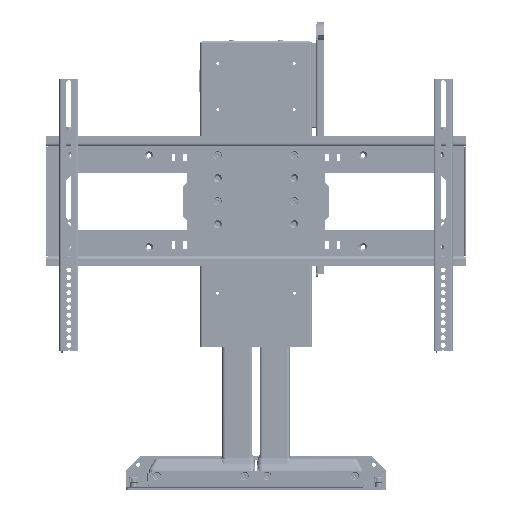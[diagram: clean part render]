
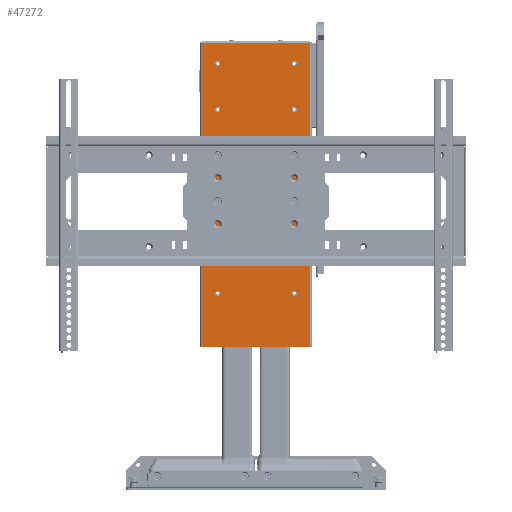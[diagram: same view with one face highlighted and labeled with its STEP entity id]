
A CAD part, front view. The second image highlights one B-rep face of the part: STEP entity #47272.
In plain terms, the highlighted planar face has unit normal (0, -1, 0) as drawn and (0, 0, 1) by its records, which use the part's own axes.
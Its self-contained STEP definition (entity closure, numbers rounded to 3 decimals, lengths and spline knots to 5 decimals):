
#3410=CIRCLE('',#54566,0.00437);
#3412=CIRCLE('',#54569,0.00437);
#3414=CIRCLE('',#54572,0.00437);
#3416=CIRCLE('',#54575,0.00437);
#3418=CIRCLE('',#54578,0.00437);
#3420=CIRCLE('',#54581,0.00437);
#3422=CIRCLE('',#54584,0.00437);
#3424=CIRCLE('',#54587,0.00437);
#3426=CIRCLE('',#54590,0.00437);
#3428=CIRCLE('',#54593,0.00437);
#3430=CIRCLE('',#54596,0.00437);
#3432=CIRCLE('',#54599,0.00437);
#7688=LINE('',#83616,#11787);
#7704=LINE('',#83660,#11803);
#7707=LINE('',#83668,#11806);
#7708=LINE('',#83669,#11807);
#11787=VECTOR('',#66756,1.);
#11803=VECTOR('',#66802,1.);
#11806=VECTOR('',#66811,1.);
#11807=VECTOR('',#66812,1.);
#23431=ORIENTED_EDGE('',*,*,#31093,.T.);
#23432=ORIENTED_EDGE('',*,*,#31065,.T.);
#23433=ORIENTED_EDGE('',*,*,#31094,.F.);
#23434=ORIENTED_EDGE('',*,*,#31089,.T.);
#23435=ORIENTED_EDGE('',*,*,#31035,.F.);
#23436=ORIENTED_EDGE('',*,*,#31033,.F.);
#23437=ORIENTED_EDGE('',*,*,#31031,.F.);
#23438=ORIENTED_EDGE('',*,*,#31029,.F.);
#23439=ORIENTED_EDGE('',*,*,#31027,.F.);
#23440=ORIENTED_EDGE('',*,*,#31025,.F.);
#23441=ORIENTED_EDGE('',*,*,#31023,.F.);
#23442=ORIENTED_EDGE('',*,*,#31021,.F.);
#23443=ORIENTED_EDGE('',*,*,#31019,.F.);
#23444=ORIENTED_EDGE('',*,*,#31017,.F.);
#23445=ORIENTED_EDGE('',*,*,#31015,.F.);
#23446=ORIENTED_EDGE('',*,*,#31013,.F.);
#31013=EDGE_CURVE('',#35695,#35695,#3410,.T.);
#31015=EDGE_CURVE('',#35697,#35697,#3412,.T.);
#31017=EDGE_CURVE('',#35699,#35699,#3414,.T.);
#31019=EDGE_CURVE('',#35701,#35701,#3416,.T.);
#31021=EDGE_CURVE('',#35703,#35703,#3418,.T.);
#31023=EDGE_CURVE('',#35705,#35705,#3420,.T.);
#31025=EDGE_CURVE('',#35707,#35707,#3422,.T.);
#31027=EDGE_CURVE('',#35709,#35709,#3424,.T.);
#31029=EDGE_CURVE('',#35711,#35711,#3426,.T.);
#31031=EDGE_CURVE('',#35713,#35713,#3428,.T.);
#31033=EDGE_CURVE('',#35715,#35715,#3430,.T.);
#31035=EDGE_CURVE('',#35717,#35717,#3432,.T.);
#31065=EDGE_CURVE('',#35739,#35740,#7688,.T.);
#31089=EDGE_CURVE('',#35752,#35751,#7704,.T.);
#31093=EDGE_CURVE('',#35751,#35739,#7707,.T.);
#31094=EDGE_CURVE('',#35752,#35740,#7708,.T.);
#35695=VERTEX_POINT('',#83500);
#35697=VERTEX_POINT('',#83505);
#35699=VERTEX_POINT('',#83510);
#35701=VERTEX_POINT('',#83515);
#35703=VERTEX_POINT('',#83520);
#35705=VERTEX_POINT('',#83525);
#35707=VERTEX_POINT('',#83530);
#35709=VERTEX_POINT('',#83535);
#35711=VERTEX_POINT('',#83540);
#35713=VERTEX_POINT('',#83545);
#35715=VERTEX_POINT('',#83550);
#35717=VERTEX_POINT('',#83555);
#35739=VERTEX_POINT('',#83617);
#35740=VERTEX_POINT('',#83618);
#35751=VERTEX_POINT('',#83659);
#35752=VERTEX_POINT('',#83661);
#39524=EDGE_LOOP('',(#23431,#23432,#23433,#23434));
#39525=EDGE_LOOP('',(#23435));
#39526=EDGE_LOOP('',(#23436));
#39527=EDGE_LOOP('',(#23437));
#39528=EDGE_LOOP('',(#23438));
#39529=EDGE_LOOP('',(#23439));
#39530=EDGE_LOOP('',(#23440));
#39531=EDGE_LOOP('',(#23441));
#39532=EDGE_LOOP('',(#23442));
#39533=EDGE_LOOP('',(#23443));
#39534=EDGE_LOOP('',(#23444));
#39535=EDGE_LOOP('',(#23445));
#39536=EDGE_LOOP('',(#23446));
#42948=FACE_BOUND('',#39524,.T.);
#42949=FACE_BOUND('',#39525,.T.);
#42950=FACE_BOUND('',#39526,.T.);
#42951=FACE_BOUND('',#39527,.T.);
#42952=FACE_BOUND('',#39528,.T.);
#42953=FACE_BOUND('',#39529,.T.);
#42954=FACE_BOUND('',#39530,.T.);
#42955=FACE_BOUND('',#39531,.T.);
#42956=FACE_BOUND('',#39532,.T.);
#42957=FACE_BOUND('',#39533,.T.);
#42958=FACE_BOUND('',#39534,.T.);
#42959=FACE_BOUND('',#39535,.T.);
#42960=FACE_BOUND('',#39536,.T.);
#44809=PLANE('',#54638);
#47272=ADVANCED_FACE('',(#42948,#42949,#42950,#42951,#42952,#42953,#42954,
#42955,#42956,#42957,#42958,#42959,#42960),#44809,.T.);
#54566=AXIS2_PLACEMENT_3D('',#83499,#66628,#66629);
#54569=AXIS2_PLACEMENT_3D('',#83504,#66634,#66635);
#54572=AXIS2_PLACEMENT_3D('',#83509,#66640,#66641);
#54575=AXIS2_PLACEMENT_3D('',#83514,#66646,#66647);
#54578=AXIS2_PLACEMENT_3D('',#83519,#66652,#66653);
#54581=AXIS2_PLACEMENT_3D('',#83524,#66658,#66659);
#54584=AXIS2_PLACEMENT_3D('',#83529,#66664,#66665);
#54587=AXIS2_PLACEMENT_3D('',#83534,#66670,#66671);
#54590=AXIS2_PLACEMENT_3D('',#83539,#66676,#66677);
#54593=AXIS2_PLACEMENT_3D('',#83544,#66682,#66683);
#54596=AXIS2_PLACEMENT_3D('',#83549,#66688,#66689);
#54599=AXIS2_PLACEMENT_3D('',#83554,#66694,#66695);
#54638=AXIS2_PLACEMENT_3D('',#83667,#66809,#66810);
#66628=DIRECTION('',(0.,0.,1.));
#66629=DIRECTION('',(1.,0.,0.));
#66634=DIRECTION('',(0.,0.,1.));
#66635=DIRECTION('',(1.,0.,0.));
#66640=DIRECTION('',(0.,0.,1.));
#66641=DIRECTION('',(1.,0.,0.));
#66646=DIRECTION('',(0.,0.,1.));
#66647=DIRECTION('',(1.,0.,0.));
#66652=DIRECTION('',(0.,0.,1.));
#66653=DIRECTION('',(1.,0.,0.));
#66658=DIRECTION('',(0.,0.,1.));
#66659=DIRECTION('',(1.,0.,0.));
#66664=DIRECTION('',(0.,0.,1.));
#66665=DIRECTION('',(1.,0.,0.));
#66670=DIRECTION('',(0.,0.,1.));
#66671=DIRECTION('',(1.,0.,0.));
#66676=DIRECTION('',(0.,0.,1.));
#66677=DIRECTION('',(1.,0.,0.));
#66682=DIRECTION('',(0.,0.,1.));
#66683=DIRECTION('',(1.,0.,0.));
#66688=DIRECTION('',(0.,0.,1.));
#66689=DIRECTION('',(1.,0.,0.));
#66694=DIRECTION('',(0.,0.,1.));
#66695=DIRECTION('',(1.,0.,0.));
#66756=DIRECTION('',(-1.,0.,0.));
#66802=DIRECTION('',(1.,0.,0.));
#66809=DIRECTION('',(0.,0.,1.));
#66810=DIRECTION('',(1.,0.,0.));
#66811=DIRECTION('',(0.,1.,0.));
#66812=DIRECTION('',(0.,1.,0.));
#83499=CARTESIAN_POINT('',(-0.0635,-0.2667,0.127));
#83500=CARTESIAN_POINT('',(-0.05913,-0.2667,0.127));
#83504=CARTESIAN_POINT('',(0.0635,-0.3429,0.127));
#83505=CARTESIAN_POINT('',(0.06787,-0.3429,0.127));
#83509=CARTESIAN_POINT('',(-0.0635,-0.3429,0.127));
#83510=CARTESIAN_POINT('',(-0.05913,-0.3429,0.127));
#83514=CARTESIAN_POINT('',(0.0635,-0.4191,0.127));
#83515=CARTESIAN_POINT('',(0.06787,-0.4191,0.127));
#83519=CARTESIAN_POINT('',(-0.0635,-0.1143,0.127));
#83520=CARTESIAN_POINT('',(-0.05913,-0.1143,0.127));
#83524=CARTESIAN_POINT('',(0.0635,-0.1905,0.127));
#83525=CARTESIAN_POINT('',(0.06787,-0.1905,0.127));
#83529=CARTESIAN_POINT('',(-0.0635,-0.1905,0.127));
#83530=CARTESIAN_POINT('',(-0.05913,-0.1905,0.127));
#83534=CARTESIAN_POINT('',(0.0635,-0.2667,0.127));
#83535=CARTESIAN_POINT('',(0.06787,-0.2667,0.127));
#83539=CARTESIAN_POINT('',(-0.0635,-0.4191,0.127));
#83540=CARTESIAN_POINT('',(-0.05913,-0.4191,0.127));
#83544=CARTESIAN_POINT('',(0.0635,-0.1143,0.127));
#83545=CARTESIAN_POINT('',(0.06787,-0.1143,0.127));
#83549=CARTESIAN_POINT('',(0.0635,-0.0381,0.127));
#83550=CARTESIAN_POINT('',(0.06787,-0.0381,0.127));
#83554=CARTESIAN_POINT('',(-0.0635,-0.0381,0.127));
#83555=CARTESIAN_POINT('',(-0.05913,-0.0381,0.127));
#83616=CARTESIAN_POINT('',(0.089,-0.00397,0.127));
#83617=CARTESIAN_POINT('',(0.089,-0.00397,0.127));
#83618=CARTESIAN_POINT('',(-0.089,-0.00397,0.127));
#83659=CARTESIAN_POINT('',(0.089,-0.508,0.127));
#83660=CARTESIAN_POINT('',(-0.09296,-0.508,0.127));
#83661=CARTESIAN_POINT('',(-0.089,-0.508,0.127));
#83667=CARTESIAN_POINT('',(-0.09296,-0.508,0.127));
#83668=CARTESIAN_POINT('',(0.089,-0.508,0.127));
#83669=CARTESIAN_POINT('',(-0.089,-0.508,0.127));
